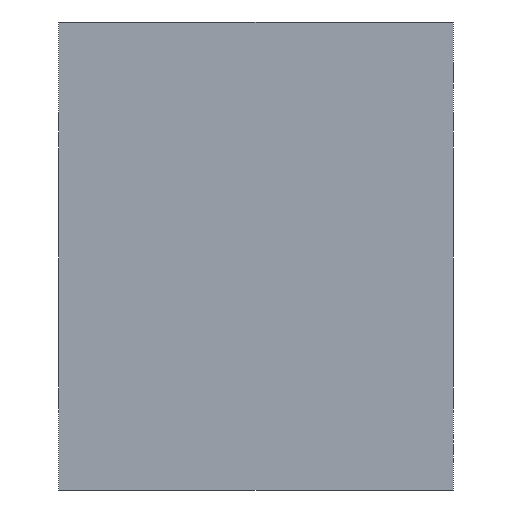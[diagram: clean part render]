
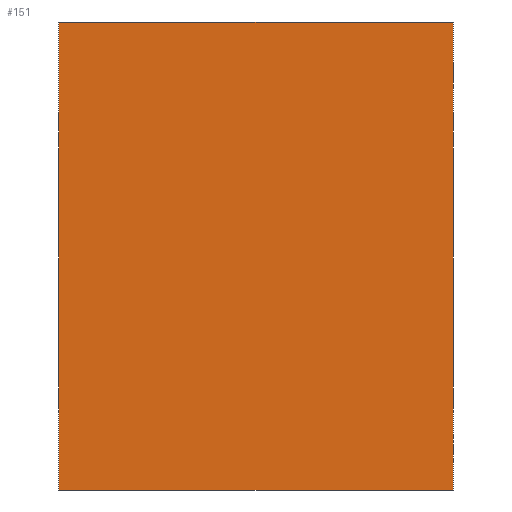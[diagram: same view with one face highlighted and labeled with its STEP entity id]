
A CAD part, front view. The second image highlights one B-rep face of the part: STEP entity #151.
In plain terms, the highlighted planar face has unit normal (0, -1, 0).
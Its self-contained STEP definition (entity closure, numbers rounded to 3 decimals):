
#107=PLANE('',#626);
#121=FACE_OUTER_BOUND('',#299,.T.);
#123=LINE('',#880,#135);
#124=LINE('',#883,#136);
#125=LINE('',#885,#137);
#126=LINE('',#887,#138);
#135=VECTOR('',#717,1.);
#136=VECTOR('',#718,1.);
#137=VECTOR('',#719,1.);
#138=VECTOR('',#720,1.);
#151=ADVANCED_FACE('',(#121),#107,.F.);
#299=EDGE_LOOP('',(#381,#382,#383,#384));
#381=ORIENTED_EDGE('',*,*,#533,.T.);
#382=ORIENTED_EDGE('',*,*,#534,.F.);
#383=ORIENTED_EDGE('',*,*,#535,.F.);
#384=ORIENTED_EDGE('',*,*,#536,.T.);
#481=VERTEX_POINT('',#881);
#482=VERTEX_POINT('',#882);
#483=VERTEX_POINT('',#884);
#484=VERTEX_POINT('',#886);
#533=EDGE_CURVE('',#481,#482,#123,.T.);
#534=EDGE_CURVE('',#483,#482,#124,.T.);
#535=EDGE_CURVE('',#484,#483,#125,.T.);
#536=EDGE_CURVE('',#484,#481,#126,.T.);
#626=AXIS2_PLACEMENT_3D('',#888,#721,#722);
#717=DIRECTION('',(0.,0.,1.));
#718=DIRECTION('',(1.,0.,0.));
#719=DIRECTION('',(0.,0.,1.));
#720=DIRECTION('',(1.,0.,0.));
#721=DIRECTION('',(0.,1.,0.));
#722=DIRECTION('',(0.,0.,1.));
#880=CARTESIAN_POINT('',(0.,-47.5,-37.));
#881=CARTESIAN_POINT('',(0.,-47.5,-37.));
#882=CARTESIAN_POINT('',(0.,-47.5,39.));
#883=CARTESIAN_POINT('',(-64.,-47.5,39.));
#884=CARTESIAN_POINT('',(-64.,-47.5,39.));
#885=CARTESIAN_POINT('',(-64.,-47.5,-37.));
#886=CARTESIAN_POINT('',(-64.,-47.5,-37.));
#887=CARTESIAN_POINT('',(-64.,-47.5,-37.));
#888=CARTESIAN_POINT('',(-64.,-47.5,-37.));
